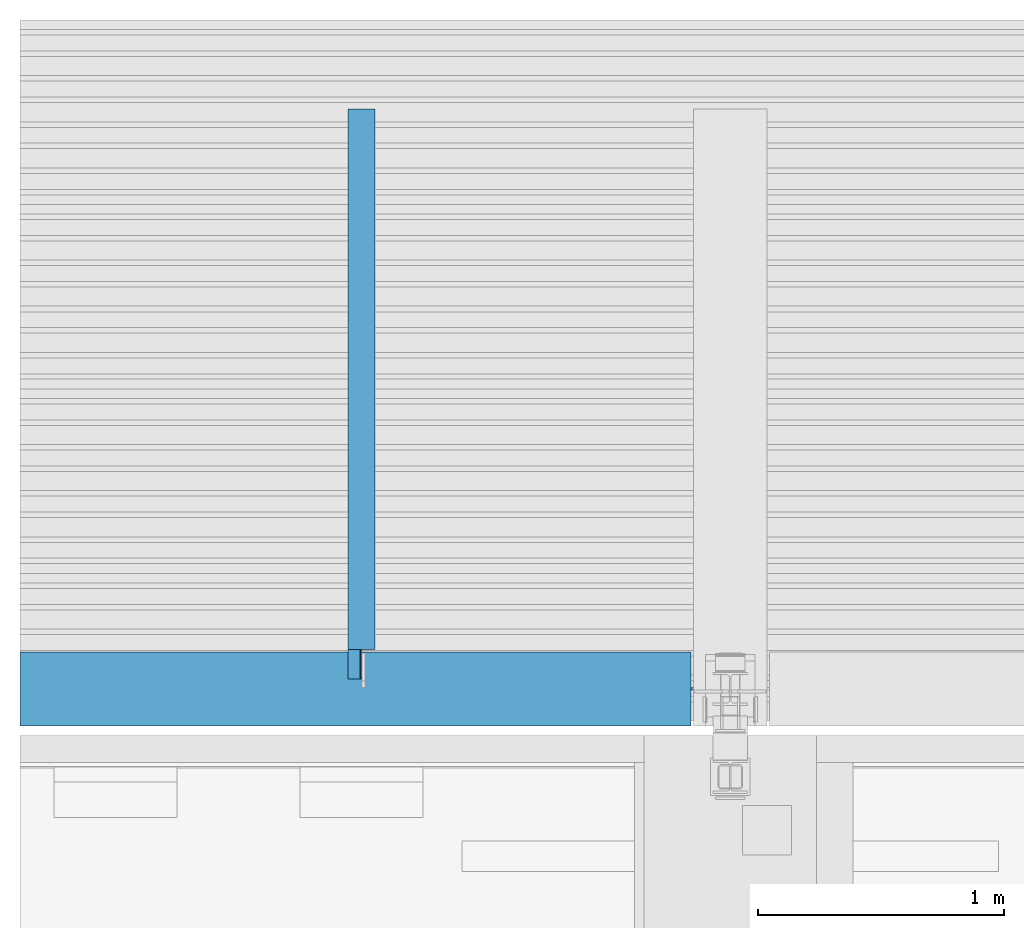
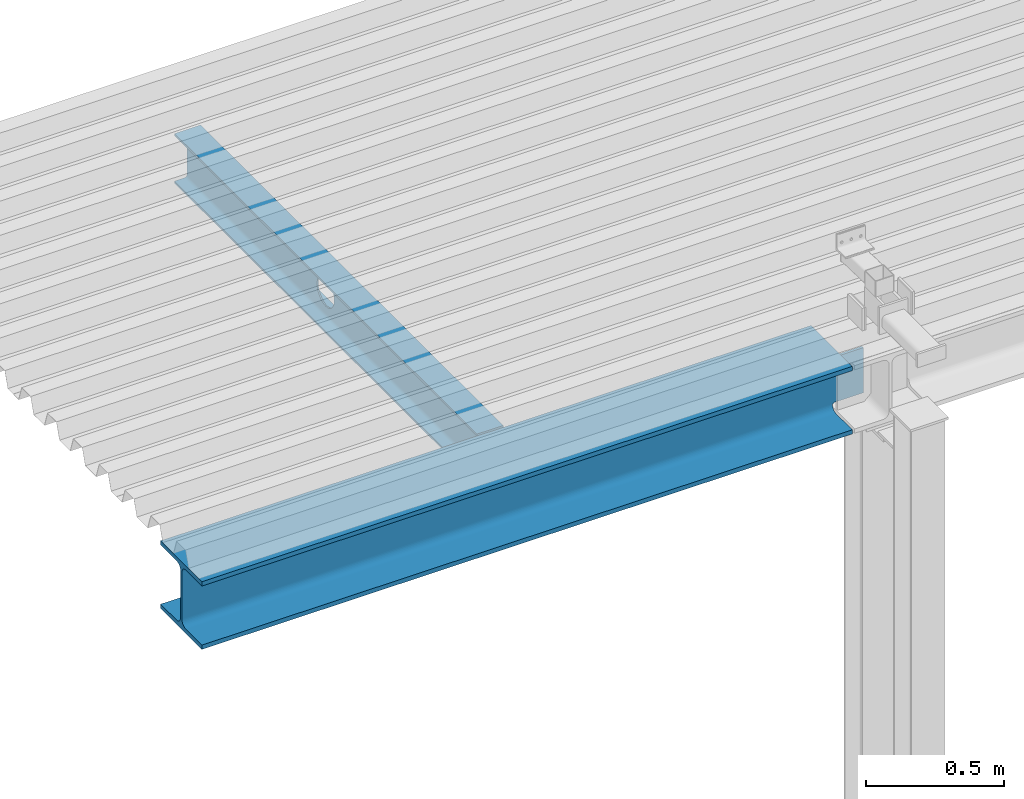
# One storey, part 23 of 34: 2 beams.
"""IFC2X3 building model written with IfcOpenShell, lengths in millimetres."""

import ifcopenshell
import ifcopenshell.guid

model = None  # the IFC model being written
_history = None  # IfcOwnerHistory: only IFC2X3 demands one
_inside = {}  # id of a spatial element -> (the spatial element, [elements in it])
_under = {}  # id of a project, library or spatial element -> (it, [spatial elements below it])
_declared = {}  # id of a project -> (the project, [libraries it declares])
_typed = {}  # id of a type object -> (the type object, [elements of that type])
_made_of = {}  # id of a material, layer set ... -> (it, [elements and type objects made of it])


def new_model(schema):
    """Start an empty IFC model of exactly this schema.

    Asked for "IFC4X3", IfcOpenShell would pick the latest addendum, in which some entities
    have other attributes; the version numbers below select the first issue.
    IFC2X3 requires an IfcOwnerHistory on every rooted entity: one is made here for all.
    """
    global model, _history
    if schema == "IFC4X3":
        model = ifcopenshell.file(schema_version=(4, 3, 0, 0))
    else:
        model = ifcopenshell.file(schema=schema)
    _inside.clear()
    _under.clear()
    _declared.clear()
    _typed.clear()
    _made_of.clear()
    _history = None
    if model.schema == "IFC2X3":
        org = make("IfcOrganization", Name="unknown")
        user = make(
            "IfcPersonAndOrganization",
            ThePerson=make("IfcPerson", FamilyName="unknown"),
            TheOrganization=org,
        )
        app = make(
            "IfcApplication",
            ApplicationDeveloper=org,
            Version="unknown",
            ApplicationFullName="unknown",
            ApplicationIdentifier="unknown",
        )
        _history = make(
            "IfcOwnerHistory",
            OwningUser=user,
            OwningApplication=app,
            ChangeAction="ADDED",
            CreationDate=0,
        )
    return model


def make(cls, **values):
    """One entity of the class cls with the attributes given. An attribute that is None is left unset."""
    return model.create_entity(
        cls, **{name: value for name, value in values.items() if value is not None}
    )


def entity(cls, *values):
    """Any entity or typed value of the class cls, its attributes in the order of the schema. None: left unset."""
    e = model.create_entity(cls)
    for i, value in enumerate(values):
        if value is not None:
            e[i] = value
    return e


def rooted(cls, **values):
    """An entity with a GlobalId (a new one), such as an element, a storey or a relation."""
    return make(cls, GlobalId=ifcopenshell.guid.new(), OwnerHistory=_history, **values)


def si_unit(unit_type, name, prefix=None):
    """IfcSIUnit, for example si_unit("LENGTHUNIT", "METRE", prefix="MILLI")."""
    return make("IfcSIUnit", UnitType=unit_type, Prefix=prefix, Name=name)


def converted_unit(unit_type, name, factor, base, dimensions=None, offset=None):
    """IfcConversionBasedUnit, such as the inch: factor (a typed value) times the base unit."""
    return make(
        "IfcConversionBasedUnit"
        if offset is None
        else "IfcConversionBasedUnitWithOffset",
        ConversionOffset=offset,
        Dimensions=None
        if dimensions is None
        else entity("IfcDimensionalExponents", *dimensions),
        UnitType=unit_type,
        Name=name,
        ConversionFactor=make(
            "IfcMeasureWithUnit", ValueComponent=factor, UnitComponent=base
        ),
    )


def derived_unit(unit_type, elements):
    """IfcDerivedUnit: a product of units, each with its exponent."""
    return make(
        "IfcDerivedUnit",
        Elements=[
            make("IfcDerivedUnitElement", Unit=unit, Exponent=power)
            for unit, power in elements
        ],
        UnitType=unit_type,
    )


def assignment(units):
    """IfcUnitAssignment: the units of a project."""
    return None if units is None else make("IfcUnitAssignment", Units=units)


def point(xyz):
    """IfcCartesianPoint."""
    return None if xyz is None else make("IfcCartesianPoint", Coordinates=xyz)


def direction(xyz):
    """IfcDirection."""
    return None if xyz is None else make("IfcDirection", DirectionRatios=xyz)


def frame(location, z_axis=None, x_axis=None):
    """IfcAxis2Placement3D, a coordinate frame: its origin and axes. An axis left out is left unset."""
    return make(
        "IfcAxis2Placement3D",
        Location=point(location),
        Axis=direction(z_axis),
        RefDirection=direction(x_axis),
    )


def origin_with_axes():
    """The frame at (0, 0, 0) with the z axis (0, 0, 1) and the x axis (1, 0, 0) written out."""
    return frame((0.0, 0.0, 0.0), z_axis=(0.0, 0.0, 1.0), x_axis=(1.0, 0.0, 0.0))


def place(relative_to, where):
    """IfcLocalPlacement: puts the frame where relative to a parent placement (None: the world)."""
    return make(
        "IfcLocalPlacement", PlacementRelTo=relative_to, RelativePlacement=where
    )


def context(
    kind, dimensions, precision=None, world=None, true_north=None, identifier=None
):
    """IfcGeometricRepresentationContext, for example the 3D "Model" context."""
    return make(
        "IfcGeometricRepresentationContext",
        ContextIdentifier=identifier,
        ContextType=kind,
        CoordinateSpaceDimension=dimensions,
        Precision=precision,
        WorldCoordinateSystem=world,
        TrueNorth=true_north,
    )


def subcontext(parent, identifier, kind, view, scale=None):
    """IfcGeometricRepresentationSubContext, for example "Body" below "Model"."""
    return make(
        "IfcGeometricRepresentationSubContext",
        ContextIdentifier=identifier,
        ContextType=kind,
        ParentContext=parent,
        TargetScale=scale,
        TargetView=view,
    )


def project(units=None, contexts=None):
    """IfcProject with its units and contexts."""
    return rooted(
        "IfcProject",
        Name="project",
        RepresentationContexts=contexts,
        UnitsInContext=assignment(units),
    )


def spatial(cls, under=None, at=None, **own):
    """A site, building, storey or space (cls), placed at a placement, below another one or the project."""
    s = rooted(cls, ObjectPlacement=at, **own)
    if under is not None:
        _under.setdefault(under.id(), (under, []))[1].append(s)
    return s


def faces_of(points, faces, orient=None, outer=None):
    """IfcFace entities. A face is a list of loops; a loop is a list of indices into points, from 0.

    orient and outer hold one flag for each loop. By default every Orientation is true, the
    first loop of a face is its IfcFaceOuterBound and the others are IfcFaceBound.
    """
    made = []
    for i, loops in enumerate(faces):
        bounds = []
        for j, loop in enumerate(loops):
            is_outer = j == 0 if outer is None else outer[i][j]
            bounds.append(
                make(
                    "IfcFaceOuterBound" if is_outer else "IfcFaceBound",
                    Bound=make("IfcPolyLoop", Polygon=[points[k] for k in loop]),
                    Orientation=True if orient is None else orient[i][j],
                )
            )
        made.append(make("IfcFace", Bounds=bounds))
    return made


def faceted_brep(points, faces, orient=None, outer=None, voids=None):
    """IfcFacetedBrep: a solid bounded by flat faces; with voids (closed shells), ...WithVoids."""
    shared = [point(p) for p in points]
    hull = make("IfcClosedShell", CfsFaces=faces_of(shared, faces, orient, outer))
    if voids is None:
        return make("IfcFacetedBrep", Outer=hull)
    return make(
        "IfcFacetedBrepWithVoids",
        Outer=hull,
        Voids=[
            make(cls, CfsFaces=faces_of(shared, fs, o, b)) for cls, fs, o, b in voids
        ],
    )


def shape(context_of_items, identifier, shape_type, items):
    """IfcShapeRepresentation: the items that make up one representation, for example the "Body"."""
    return make(
        "IfcShapeRepresentation",
        ContextOfItems=context_of_items,
        RepresentationIdentifier=identifier,
        RepresentationType=shape_type,
        Items=items,
    )


def made_of(thing, what):
    """Note that an element or type object is made of a material, layer set ...; save() writes the relation."""
    if what is not None:
        _made_of.setdefault(what.id(), (what, []))[1].append(thing)
    return thing


def type_object(cls, material=None, **own):
    """A type object (cls), such as IfcWallType, which elements share."""
    return made_of(rooted(cls, **own), material)


def element(
    cls,
    number,
    at=None,
    inside=None,
    cuts=None,
    type_object=None,
    material=None,
    context=None,
    identifier="Body",
    shape_type=None,
    held_by="IfcProductDefinitionShape",
    body=None,
    shapes=None,
    **own,
):
    """One element of the class cls, such as IfcWall. Its Tag is "e" and its number.

    at: its placement. inside: the storey or other place that contains it. cuts: it is an
    opening in that element (IfcRelVoidsElement). A single representation is given by context,
    identifier, shape_type and body (its items); several are given by shapes. held_by: the class
    of the entity that holds the representations. save() writes the other relations.
    """
    e = rooted(cls, Tag="e%d" % number, ObjectPlacement=at, **own)
    if body is not None:
        shapes = [shape(context, identifier, shape_type, body)]
    if shapes is not None:
        e.Representation = make(held_by, Representations=shapes)
    if inside is not None:
        _inside.setdefault(inside.id(), (inside, []))[1].append(e)
    if cuts is not None:
        rooted(
            "IfcRelVoidsElement", RelatingBuildingElement=cuts, RelatedOpeningElement=e
        )
    if type_object is not None:
        _typed.setdefault(type_object.id(), (type_object, []))[1].append(e)
    return made_of(e, material)


def aggregate(whole, parts):
    """IfcRelAggregates: a whole, such as a stair, and the parts it consists of."""
    return rooted("IfcRelAggregates", RelatingObject=whole, RelatedObjects=parts)


def save(model, path):
    """Write the relations noted so far, then the file.

    IfcRelAggregates (storeys below a building ...), IfcRelContainedInSpatialStructure (elements
    in a storey), IfcRelDefinesByType, IfcRelAssociatesMaterial and IfcRelDeclares: one each for
    every whole, place, type object, material and project.
    """
    for whole, parts in _under.values():
        aggregate(whole, parts)
    for where, things in _inside.values():
        rooted(
            "IfcRelContainedInSpatialStructure",
            RelatedElements=things,
            RelatingStructure=where,
        )
    for kind, things in _typed.values():
        rooted("IfcRelDefinesByType", RelatedObjects=things, RelatingType=kind)
    for what, things in _made_of.values():
        rooted("IfcRelAssociatesMaterial", RelatedObjects=things, RelatingMaterial=what)
    for by, libraries in _declared.values():
        rooted("IfcRelDeclares", RelatingContext=by, RelatedDefinitions=libraries)
    model.write(path)


model = new_model("IFC2X3")

# Units and contexts
model_context = context("Model", 3, precision=0.01, world=frame((0.0, 4.29681676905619e-09, 0.0)), true_north=direction((4.01073788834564e-13, 1.0)))
plan_context = context("Plan", 3, precision=0.01, world=frame((0.0, 4.29681676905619e-09, 0.0)), true_north=direction((4.01073788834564e-13, 1.0)))
body_context = subcontext(model_context, "Body", "Model", "MODEL_VIEW")
ifc_project = project(units=[converted_unit("PLANEANGLEUNIT", "DEGREE", entity("IfcPositiveLengthMeasure", 0.0174532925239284), si_unit("PLANEANGLEUNIT", "RADIAN"), dimensions=[0, 0, 0, 0, 0, 0, 0]), si_unit("AREAUNIT", "SQUARE_METRE"), si_unit("LENGTHUNIT", "METRE", prefix="MILLI"), si_unit("MASSUNIT", "GRAM", prefix="KILO"), si_unit("POWERUNIT", "WATT"), si_unit("PRESSUREUNIT", "PASCAL"), si_unit("FORCEUNIT", "NEWTON", prefix="KILO"), si_unit("ELECTRICVOLTAGEUNIT", "VOLT"), si_unit("ELECTRICCURRENTUNIT", "AMPERE"), si_unit("THERMODYNAMICTEMPERATUREUNIT", "DEGREE_CELSIUS"), si_unit("TIMEUNIT", "SECOND"), si_unit("VOLUMEUNIT", "CUBIC_METRE"), derived_unit("LINEARVELOCITYUNIT", [(si_unit("LENGTHUNIT", "METRE"), 1), (si_unit("TIMEUNIT", "SECOND"), -1)]), derived_unit("VOLUMETRICFLOWRATEUNIT", [(si_unit("VOLUMEUNIT", "CUBIC_METRE"), 1), (si_unit("TIMEUNIT", "SECOND"), -1)]), derived_unit("THERMALTRANSMITTANCEUNIT", [(si_unit("POWERUNIT", "WATT"), 1), (si_unit("THERMODYNAMICTEMPERATUREUNIT", "KELVIN"), -1), (si_unit("AREAUNIT", "SQUARE_METRE"), -1)]), derived_unit("SOUNDPRESSUREUNIT", [(si_unit("PRESSUREUNIT", "PASCAL"), 1)])], contexts=[model_context, plan_context])

# Site, building, storey
site_placement = place(None, frame((0.0, -4.29681676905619e-09, 0.0), z_axis=(0.0, 0.0, 1.0), x_axis=(1.0, 0.0, 0.0)))
site = spatial("IfcSite", under=ifc_project, at=site_placement, Name="Gardermoen", CompositionType="ELEMENT")
building_placement = place(site_placement, frame((0.0, 4.29681676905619e-09, 0.0), z_axis=(0.0, 0.0, 1.0), x_axis=(1.0, 0.0, 0.0)))
building = spatial("IfcBuilding", under=site, at=building_placement, Name="TH", CompositionType="ELEMENT")
storey_placement = place(building_placement, origin_with_axes())
storey = spatial("IfcBuildingStorey", under=building, at=storey_placement, Name="F", CompositionType="ELEMENT", Elevation=0.0)

# Beams
beam_type_1 = type_object("IfcBeamType", Name="HEB300", PredefinedType="NOTDEFINED")
beam_1_placement = place(storey_placement, frame((887033.999781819, 484999.995625, 213270.0), z_axis=(0.0, 0.0, 1.0), x_axis=(1.0, 0.0, 0.0)))
element("IfcBeam", 1, at=beam_1_placement, inside=storey, type_object=beam_type_1, Name="STÅLBJELKE", ObjectType="HEB300", context=body_context, shape_type="Brep", body=[
    faceted_brep([(8077.90638675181, 150.0, -150.0), (8077.90638675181, -150.0, -150.0), (10806.0002181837, -150.0, -150.0), (10806.0002181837, 150.0, -150.0), (8077.90638675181, -150.0, -131.0), (10806.0002181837, -150.0, -131.0), (8077.90638675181, -32.5, -131.0), (10806.0002181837, -32.5, -131.0), (8077.90638675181, -27.2325613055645, -130.481202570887), (10806.0002181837, -27.2325613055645, -130.481202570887), (8077.90638675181, -22.1675473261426, -128.944747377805), (10806.0002181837, -22.1675473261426, -128.944747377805), (8077.90638675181, -17.4996037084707, -126.449679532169), (10806.0002181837, -17.4996037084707, -126.449679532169), (8077.90638675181, -13.4081169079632, -123.091883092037), (10806.0002181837, -13.4081169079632, -123.091883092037), (8077.90638675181, -10.0503204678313, -119.000396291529), (10806.0002181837, -10.0503204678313, -119.000396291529), (8077.90638675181, -7.55525262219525, -114.332452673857), (10806.0002181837, -7.55525262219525, -114.332452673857), (8077.90638675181, -6.01879742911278, -109.267438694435), (10806.1233347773, -6.01879742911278, -109.267438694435), (10806.0002181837, -6.24101747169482, -110.0), (8077.90638675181, -5.5, -104.0), (10808.0143720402, -5.5, -104.0), (10807.9100482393, -5.51203047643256, -104.122147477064), (10807.0901529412, -5.64380680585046, -105.460095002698), (10806.4896530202, -5.7865932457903, -106.909830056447), (10806.1233347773, -5.93687392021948, -108.435655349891), (8077.90638675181, -5.5, 104.0), (10808.0143720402, -5.5, 104.0), (10808.9291503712, -5.5, 102.928932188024), (10810.1223656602, -5.5, 101.909830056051), (10811.4603131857, -5.5, 101.089934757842), (10812.9100482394, -5.5, 100.489434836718), (10814.4358735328, -5.5, 100.123116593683), (10816.0002181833, -5.5, 99.9999999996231), (10936.0002181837, -5.5, 100.0), (10936.0002181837, -5.5, -100.0), (10816.0002181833, -5.5, -99.999999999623), (10814.4358735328, -5.5, -100.123116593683), (10812.9100482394, -5.5, -100.489434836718), (10811.4603131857, -5.5, -101.089934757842), (10810.1223656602, -5.5, -101.909830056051), (10808.9291503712, -5.5, -102.928932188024), (8077.90638675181, -6.01879742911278, 109.267438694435), (10806.1233347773, -6.01879742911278, 109.267438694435), (10806.1233347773, -5.93687392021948, 108.435655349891), (10806.4896530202, -5.78659324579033, 106.909830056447), (10807.0901529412, -5.64380680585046, 105.460095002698), (10807.9100482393, -5.5, 104.122147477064), (8077.90638675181, -7.55525262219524, 114.332452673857), (10806.0002181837, -7.55525262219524, 114.332452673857), (10806.0002181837, -6.24101747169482, 110.0), (8077.90638675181, -10.0503204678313, 119.000396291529), (10806.0002181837, -10.0503204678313, 119.000396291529), (8077.90638675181, -13.4081169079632, 123.091883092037), (10806.0002181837, -13.4081169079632, 123.091883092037), (8077.90638675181, -17.4996037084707, 126.449679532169), (10806.0002181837, -17.4996037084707, 126.449679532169), (8077.90638675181, -22.1675473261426, 128.944747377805), (10806.0002181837, -22.1675473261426, 128.944747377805), (8077.90638675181, -27.2325613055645, 130.481202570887), (10806.0002181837, -27.2325613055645, 130.481202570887), (8077.90638675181, -32.5, 131.0), (10806.0002181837, -32.5, 131.0), (8077.90638675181, -150.0, 131.0), (10806.0002181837, -150.0, 131.0), (8077.90638675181, -150.0, 150.0), (10806.0002181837, -150.0, 150.0), (8077.90638675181, 150.0, 150.0), (10806.0002181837, 150.0, 150.0), (8077.90638675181, 150.0, 131.0), (10806.0002181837, 150.0, 131.0), (8077.90638675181, 32.5, 131.0), (10806.0002181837, 32.5, 131.0), (8077.90638675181, 27.2325613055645, 130.481202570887), (10806.0002181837, 27.2325613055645, 130.481202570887), (8077.90638675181, 22.1675473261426, 128.944747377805), (10806.0002181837, 22.1675473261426, 128.944747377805), (8077.90638675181, 17.4996037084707, 126.449679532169), (10806.0002181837, 17.4996037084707, 126.449679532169), (8077.90638675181, 13.4081169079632, 123.091883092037), (10806.0002181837, 13.4081169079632, 123.091883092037), (8077.90638675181, 10.0503204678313, 119.000396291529), (10806.0002181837, 10.0503204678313, 119.000396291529), (8077.90638675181, 7.55525262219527, 114.332452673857), (10806.0002181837, 7.55525262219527, 114.332452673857), (8077.90638675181, 6.01879742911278, 109.267438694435), (10806.1233347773, 6.01879742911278, 109.267438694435), (10806.0002181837, 6.24101747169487, 110.0), (8077.90638675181, 5.5, 104.0), (10808.0143720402, 5.5, 104.0), (10807.9100482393, 5.51203047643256, 104.122147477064), (10807.0901529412, 5.64380680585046, 105.460095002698), (10806.4896530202, 5.7865932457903, 106.909830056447), (10806.1233347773, 5.93687392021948, 108.435655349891), (8077.90638675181, 5.5, -104.0), (10808.0143720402, 5.5, -104.0), (10808.9291503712, 5.5, -102.928932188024), (10810.1223656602, 5.5, -101.909830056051), (10811.4603131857, 5.5, -101.089934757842), (10812.9100482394, 5.5, -100.489434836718), (10814.4358735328, 5.5, -100.123116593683), (10816.0002181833, 5.5, -99.999999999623), (10936.0002181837, 5.5, -100.0), (10936.0002181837, 5.5, 100.0), (10816.0002181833, 5.5, 99.9999999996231), (10814.4358735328, 5.5, 100.123116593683), (10812.9100482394, 5.5, 100.489434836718), (10811.4603131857, 5.5, 101.089934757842), (10810.1223656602, 5.5, 101.909830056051), (10808.9291503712, 5.5, 102.928932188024), (8077.90638675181, 6.01879742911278, -109.267438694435), (10806.1233347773, 6.01879742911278, -109.267438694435), (10806.1233347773, 5.93687392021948, -108.435655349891), (10806.4896530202, 5.78659324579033, -106.909830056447), (10807.0901529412, 5.64380680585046, -105.460095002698), (10807.9100482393, 5.5, -104.122147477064), (8077.90638675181, 7.55525262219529, -114.332452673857), (10806.0002181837, 7.55525262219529, -114.332452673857), (10806.0002181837, 6.24101747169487, -110.0), (8077.90638675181, 10.0503204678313, -119.000396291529), (10806.0002181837, 10.0503204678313, -119.000396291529), (8077.90638675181, 13.4081169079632, -123.091883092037), (10806.0002181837, 13.4081169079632, -123.091883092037), (8077.90638675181, 17.4996037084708, -126.449679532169), (10806.0002181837, 17.4996037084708, -126.449679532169), (8077.90638675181, 22.1675473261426, -128.944747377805), (10806.0002181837, 22.1675473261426, -128.944747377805), (8077.90638675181, 27.2325613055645, -130.481202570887), (10806.0002181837, 27.2325613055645, -130.481202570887), (8077.90638675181, 32.5, -131.0), (10806.0002181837, 32.5, -131.0), (8077.90638675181, 150.0, -131.0), (10806.0002181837, 150.0, -131.0), (10807.9100482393, -5.51203047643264, 104.122147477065), (10805.9236412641, -6.01879742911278, 109.267438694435), (10805.9236412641, 6.01879742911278, 109.267438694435), (10805.6592467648, -7.55525262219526, 114.332452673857), (10805.6592467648, 7.55525262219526, 114.332452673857), (10807.9100482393, 5.51203047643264, -104.122147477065), (10805.9236412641, 6.01879742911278, -109.267438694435), (10805.9236412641, -6.01879742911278, -109.267438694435), (10805.6592467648, 7.55525262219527, -114.332452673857), (10805.6592467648, -7.55525262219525, -114.332452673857)], [[[0, 1, 2, 3]], [[1, 4, 5, 2]], [[4, 6, 7, 5]], [[6, 8, 9, 7]], [[8, 10, 11, 9]], [[10, 12, 13, 11]], [[12, 14, 15, 13]], [[14, 16, 17, 15]], [[16, 18, 19, 17]], [[18, 20, 21, 22, 19]], [[20, 23, 24, 25, 26, 27, 28, 21]], [[23, 29, 30, 31, 32, 33, 34, 35, 36, 37, 38, 39, 40, 41, 42, 43, 44, 24]], [[29, 45, 46, 47, 48, 49, 50, 30]], [[45, 51, 52, 53, 46]], [[51, 54, 55, 52]], [[54, 56, 57, 55]], [[56, 58, 59, 57]], [[58, 60, 61, 59]], [[60, 62, 63, 61]], [[62, 64, 65, 63]], [[64, 66, 67, 65]], [[66, 68, 69, 67]], [[68, 70, 71, 69]], [[70, 72, 73, 71]], [[72, 74, 75, 73]], [[74, 76, 77, 75]], [[76, 78, 79, 77]], [[78, 80, 81, 79]], [[80, 82, 83, 81]], [[82, 84, 85, 83]], [[84, 86, 87, 85]], [[86, 88, 89, 90, 87]], [[88, 91, 92, 93, 94, 95, 96, 89]], [[91, 97, 98, 99, 100, 101, 102, 103, 104, 105, 106, 107, 108, 109, 110, 111, 112, 92]], [[97, 113, 114, 115, 116, 117, 118, 98]], [[113, 119, 120, 121, 114]], [[119, 122, 123, 120]], [[122, 124, 125, 123]], [[124, 126, 127, 125]], [[126, 128, 129, 127]], [[128, 130, 131, 129]], [[130, 132, 133, 131]], [[132, 134, 135, 133]], [[134, 0, 3, 135]], [[37, 106, 105, 38]], [[107, 106, 37, 36]], [[36, 35, 108, 107]], [[35, 34, 109, 108]], [[34, 33, 110, 109]], [[33, 32, 111, 110]], [[32, 31, 112, 111]], [[31, 30, 136, 93, 92, 112]], [[136, 49, 94, 93]], [[49, 48, 95, 94]], [[48, 47, 96, 95]], [[47, 137, 53, 90, 138, 96]], [[53, 139, 55, 57, 59, 61, 63, 65, 67, 69, 71, 73, 75, 77, 79, 81, 83, 85, 140, 90]], [[39, 38, 105, 104]], [[104, 103, 40, 39]], [[103, 102, 41, 40]], [[102, 101, 42, 41]], [[101, 100, 43, 42]], [[100, 99, 44, 43]], [[99, 98, 141, 25, 24, 44]], [[141, 117, 26, 25]], [[117, 116, 27, 26]], [[116, 115, 28, 27]], [[115, 142, 121, 22, 143, 28]], [[121, 144, 123, 125, 127, 129, 131, 133, 135, 3, 2, 5, 7, 9, 11, 13, 15, 17, 145, 22]], [[134, 132, 130, 128, 126, 124, 122, 119, 113, 97, 91, 88, 86, 84, 82, 80, 78, 76, 74, 72, 70, 68, 66, 64, 62, 60, 58, 56, 54, 51, 45, 29, 23, 20, 18, 16, 14, 12, 10, 8, 6, 4, 1, 0]]], orient=[[False], [False], [False], [False], [False], [False], [False], [False], [False], [False], [False], [False], [False], [False], [False], [False], [False], [False], [False], [False], [False], [False], [False], [False], [False], [False], [False], [False], [False], [False], [False], [False], [False], [False], [False], [False], [False], [False], [False], [False], [False], [False], [False], [False], [False], [False], [False], [False], [False], [False], [False], [False], [False], [False], [False], [False], [False], [False], [False], [False], [False], [False], [False], [False], [False], [False], [False], [False], [False], [False]]),
])
beam_type_2 = type_object("IfcBeamType", Name="IPE220", PredefinedType="NOTDEFINED")
beam_2_placement = place(storey_placement, frame((896499.999781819, 485029.995624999, 213310.0), z_axis=(0.0, 0.0, 1.0), x_axis=(0.0, 1.0, 0.0)))
element("IfcBeam", 2, at=beam_2_placement, inside=storey, type_object=beam_type_2, Name="STÅLBJELKE", ObjectType="IPE220", context=body_context, shape_type="Brep", body=[
    faceted_brep([(2327.65437500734, -55.0, -110.0), (2327.65437500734, 55.0, -110.0), (9.99999999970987, 55.0, -110.0), (9.99999999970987, -2.9500000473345, -110.0), (129.999999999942, -2.95000004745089, -110.0), (129.999999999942, -55.0, -110.0), (2327.65437500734, -55.0, -100.800000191), (129.999999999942, -55.0, -100.800000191), (2327.65437500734, -14.9500000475, -100.800000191), (129.999999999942, -14.9500000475, -100.800000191), (2327.65437500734, -12.6089161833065, -100.569423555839), (129.999999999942, -12.6089161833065, -100.569423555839), (2327.65437500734, -10.3577988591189, -99.8865545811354), (129.999999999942, -10.3577988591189, -99.8865545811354), (2327.65437500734, -8.28315725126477, -98.7776355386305), (129.999999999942, -8.28315725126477, -98.7776355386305), (2327.65437500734, -6.46471867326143, -97.2852815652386), (129.999999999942, -6.46471867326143, -97.2852815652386), (2327.65437500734, -4.97236469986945, -95.4668429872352), (129.999999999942, -4.97236469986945, -95.4668429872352), (2327.65437500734, -3.86344565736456, -93.3922013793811), (129.999999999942, -3.86344565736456, -93.3922013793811), (2327.65437500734, -3.18057668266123, -91.1410840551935), (129.999999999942, -3.18057668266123, -91.1410840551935), (2327.65437500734, -2.9500000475, -88.800000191), (129.999999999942, -2.96969830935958, -89.0), (9.99999999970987, -2.96969830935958, -89.0), (9.99999999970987, -2.9500000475, -88.800000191), (2327.65437500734, -2.9500000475, 88.800000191), (9.99999999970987, -2.9500000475, 70.0), (120.000000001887, -2.9500000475, 69.9999999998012), (121.564344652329, -2.9500000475, 70.1231165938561), (123.090169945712, -2.9500000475, 70.4894348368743), (124.539904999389, -2.9500000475, 71.0899347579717), (125.87785252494, -2.9500000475, 71.9098300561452), (127.071067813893, -2.9500000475, 72.9289321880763), (128.090169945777, -2.9500000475, 74.1221474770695), (128.910065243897, -2.9500000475, 75.4600950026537), (129.510565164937, -2.9500000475, 76.9098300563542), (129.876883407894, -2.9500000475, 78.4356553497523), (130.000000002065, -2.9500000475, 79.999999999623), (130.000000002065, -2.9500000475, 88.800000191), (1319.99999644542, -2.95000004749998, -62.4999973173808), (1330.28716071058, -2.95000004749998, -61.6475789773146), (1340.29371582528, -2.95000004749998, -59.113575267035), (1349.74671125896, -2.95000004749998, -54.9671072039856), (1358.38829393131, -2.95000004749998, -49.3212796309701), (1365.98274398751, -2.95000004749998, -42.3300960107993), (1372.32290462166, -2.95000004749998, -34.1842576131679), (1377.23583277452, -2.95000004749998, -25.1059616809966), (1380.58751656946, -2.95000004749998, -15.3428404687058), (1382.28653080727, -2.95000004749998, -5.16120647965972), (1382.28653080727, -2.95000004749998, 5.16121184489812), (1380.58751656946, -2.95000004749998, 15.3428458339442), (1377.23583277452, -2.95000004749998, 25.105967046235), (1372.32290462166, -2.95000004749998, 34.1842629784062), (1365.98274398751, -2.95000004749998, 42.3301013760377), (1358.38829393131, -2.95000004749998, 49.3212849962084), (1349.74671125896, -2.95000004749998, 54.9671125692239), (1340.29371582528, -2.95000004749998, 59.1135806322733), (1330.28716071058, -2.95000004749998, 61.6475843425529), (1319.99999866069, -2.95000004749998, 62.5000026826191), (1309.14699239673, -2.95000004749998, 61.5504878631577), (1298.62374438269, -2.95000004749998, 58.7307926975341), (1288.75000307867, -2.95000004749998, 54.1265921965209), (1279.82577711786, -2.95000004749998, 47.8777826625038), (1272.12222459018, -2.95000004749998, 40.1742310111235), (1265.87341404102, -2.95000004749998, 31.250005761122), (1261.26921241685, -2.95000004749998, 21.3762649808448), (1258.44951605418, -2.95000004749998, 10.8530172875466), (1257.50000000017, -2.95000004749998, 6.23736814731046e-06), (1258.44951481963, -2.95000004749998, -10.8530049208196), (1261.26920998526, -2.95000004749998, -21.3762529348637), (1265.87341048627, -2.95000004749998, -31.2499942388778), (1272.12222002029, -2.95000004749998, -40.1742201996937), (1279.82577167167, -2.95000004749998, -47.8777727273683), (1288.74999692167, -2.95000004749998, -54.1265832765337), (1298.62373770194, -2.95000004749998, -58.7307849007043), (1309.14698539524, -2.95000004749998, -61.5504812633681), (2327.65437500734, -3.18057668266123, 91.1410840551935), (130.000000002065, -3.18057668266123, 91.1410840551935), (2327.65437500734, -3.86344565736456, 93.3922013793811), (130.000000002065, -3.86344565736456, 93.3922013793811), (2327.65437500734, -4.97236469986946, 95.4668429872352), (130.000000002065, -4.97236469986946, 95.4668429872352), (2327.65437500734, -6.46471867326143, 97.2852815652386), (130.000000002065, -6.46471867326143, 97.2852815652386), (2327.65437500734, -8.28315725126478, 98.7776355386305), (130.000000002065, -8.28315725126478, 98.7776355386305), (2327.65437500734, -10.3577988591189, 99.8865545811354), (130.000000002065, -10.3577988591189, 99.8865545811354), (2327.65437500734, -12.6089161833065, 100.569423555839), (130.000000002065, -12.6089161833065, 100.569423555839), (2327.65437500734, -14.9500000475, 100.800000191), (130.000000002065, -14.9500000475, 100.800000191), (2327.65437500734, -55.0, 100.800000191), (130.000000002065, -55.0, 100.800000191), (2327.65437500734, -55.0, 110.0), (130.000000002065, -55.0, 110.0), (2327.65437500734, 55.0, 110.0), (130.000000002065, 55.0, 110.0), (2327.65437500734, 55.0, 100.800000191), (130.000000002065, 55.0, 100.800000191), (2327.65437500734, 14.9500000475, 100.800000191), (130.000000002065, 14.9500000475, 100.800000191), (2327.65437500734, 12.6089161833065, 100.569423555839), (130.000000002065, 12.6089161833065, 100.569423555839), (2327.65437500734, 10.3577988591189, 99.8865545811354), (130.000000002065, 10.3577988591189, 99.8865545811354), (2327.65437500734, 8.28315725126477, 98.7776355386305), (130.000000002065, 8.28315725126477, 98.7776355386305), (2327.65437500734, 6.46471867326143, 97.2852815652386), (130.000000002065, 6.46471867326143, 97.2852815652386), (2327.65437500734, 4.97236469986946, 95.4668429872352), (130.000000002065, 4.97236469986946, 95.4668429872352), (2327.65437500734, 3.86344565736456, 93.3922013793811), (130.000000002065, 3.86344565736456, 93.3922013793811), (2327.65437500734, 3.18057668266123, 91.1410840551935), (130.000000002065, 3.18057668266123, 91.1410840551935), (2327.65437500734, 2.9500000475, 88.800000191), (130.000000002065, 2.9500000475, 88.800000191), (2327.65437500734, 2.9500000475, -88.800000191), (130.000000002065, 2.95000004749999, 79.999999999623), (129.876883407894, 2.95000004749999, 78.4356553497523), (129.510565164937, 2.95000004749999, 76.9098300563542), (128.910065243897, 2.95000004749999, 75.4600950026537), (128.090169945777, 2.95000004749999, 74.1221474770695), (127.071067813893, 2.95000004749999, 72.9289321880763), (125.87785252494, 2.95000004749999, 71.9098300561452), (124.539904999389, 2.95000004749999, 71.0899347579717), (123.090169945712, 2.95000004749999, 70.4894348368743), (121.564344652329, 2.95000004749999, 70.1231165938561), (120.000000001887, 2.95000004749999, 69.9999999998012), (9.99999999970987, 2.9500000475, 70.0), (9.99999999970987, 2.9500000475, -88.800000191), (1330.28716071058, 2.95000004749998, -61.6475789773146), (1319.99999644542, 2.95000004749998, -62.4999973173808), (1309.14698539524, 2.95000004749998, -61.5504812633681), (1298.62373770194, 2.95000004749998, -58.7307849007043), (1288.74999692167, 2.95000004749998, -54.1265832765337), (1279.82577167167, 2.95000004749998, -47.8777727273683), (1272.12222002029, 2.95000004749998, -40.1742201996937), (1265.87341048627, 2.95000004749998, -31.2499942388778), (1261.26920998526, 2.95000004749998, -21.3762529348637), (1258.44951481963, 2.95000004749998, -10.8530049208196), (1257.50000000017, 2.95000004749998, 6.23736814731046e-06), (1258.44951605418, 2.95000004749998, 10.8530172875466), (1261.26921241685, 2.95000004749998, 21.3762649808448), (1265.87341404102, 2.95000004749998, 31.250005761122), (1272.12222459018, 2.95000004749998, 40.1742310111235), (1279.82577711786, 2.95000004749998, 47.8777826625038), (1288.75000307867, 2.95000004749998, 54.1265921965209), (1298.62374438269, 2.95000004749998, 58.7307926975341), (1309.14699239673, 2.95000004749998, 61.5504878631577), (1319.99999866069, 2.95000004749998, 62.5000026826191), (1330.28716071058, 2.95000004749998, 61.6475843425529), (1340.29371582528, 2.95000004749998, 59.1135806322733), (1349.74671125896, 2.95000004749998, 54.9671125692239), (1358.38829393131, 2.95000004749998, 49.3212849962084), (1365.98274398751, 2.95000004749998, 42.3301013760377), (1372.32290462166, 2.95000004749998, 34.1842629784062), (1377.23583277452, 2.95000004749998, 25.105967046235), (1380.58751656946, 2.95000004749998, 15.3428458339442), (1382.28653080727, 2.95000004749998, 5.16121184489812), (1382.28653080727, 2.95000004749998, -5.16120647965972), (1380.58751656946, 2.95000004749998, -15.3428404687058), (1377.23583277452, 2.95000004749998, -25.1059616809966), (1372.32290462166, 2.95000004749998, -34.1842576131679), (1365.98274398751, 2.95000004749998, -42.3300960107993), (1358.38829393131, 2.95000004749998, -49.3212796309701), (1349.74671125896, 2.95000004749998, -54.9671072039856), (1340.29371582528, 2.95000004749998, -59.113575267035), (2327.65437500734, 3.18057668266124, -91.1410840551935), (9.99999999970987, 3.18057668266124, -91.1410840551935), (2327.65437500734, 3.86344565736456, -93.3922013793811), (9.99999999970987, 3.86344565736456, -93.3922013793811), (2327.65437500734, 4.97236469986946, -95.4668429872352), (9.99999999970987, 4.97236469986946, -95.4668429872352), (2327.65437500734, 6.46471867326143, -97.2852815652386), (9.99999999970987, 6.46471867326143, -97.2852815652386), (2327.65437500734, 8.28315725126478, -98.7776355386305), (9.99999999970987, 8.28315725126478, -98.7776355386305), (2327.65437500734, 10.3577988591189, -99.8865545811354), (9.99999999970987, 10.3577988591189, -99.8865545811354), (2327.65437500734, 12.6089161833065, -100.569423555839), (9.99999999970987, 12.6089161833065, -100.569423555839), (2327.65437500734, 14.9500000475, -100.800000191), (9.99999999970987, 14.9500000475, -100.800000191), (2327.65437500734, 55.0, -100.800000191), (9.99999999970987, 55.0, -100.800000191), (129.999999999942, -2.95000004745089, -89.0), (9.99999999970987, -2.95000004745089, -89.0)], [[[0, 1, 2, 3, 4, 5]], [[6, 0, 5, 7]], [[8, 6, 7, 9]], [[10, 8, 9, 11]], [[12, 10, 11, 13]], [[14, 12, 13, 15]], [[16, 14, 15, 17]], [[18, 16, 17, 19]], [[20, 18, 19, 21]], [[22, 20, 21, 23]], [[24, 22, 23, 25, 26, 27]], [[28, 24, 27, 29, 30, 31, 32, 33, 34, 35, 36, 37, 38, 39, 40, 41], [42, 43, 44, 45, 46, 47, 48, 49, 50, 51, 52, 53, 54, 55, 56, 57, 58, 59, 60, 61, 62, 63, 64, 65, 66, 67, 68, 69, 70, 71, 72, 73, 74, 75, 76, 77, 78]], [[79, 28, 41, 80]], [[81, 79, 80, 82]], [[83, 81, 82, 84]], [[85, 83, 84, 86]], [[87, 85, 86, 88]], [[89, 87, 88, 90]], [[91, 89, 90, 92]], [[93, 91, 92, 94]], [[95, 93, 94, 96]], [[97, 95, 96, 98]], [[99, 97, 98, 100]], [[101, 99, 100, 102]], [[103, 101, 102, 104]], [[105, 103, 104, 106]], [[107, 105, 106, 108]], [[109, 107, 108, 110]], [[111, 109, 110, 112]], [[113, 111, 112, 114]], [[115, 113, 114, 116]], [[117, 115, 116, 118]], [[119, 117, 118, 120]], [[121, 119, 120, 122, 123, 124, 125, 126, 127, 128, 129, 130, 131, 132, 133, 134], [135, 136, 137, 138, 139, 140, 141, 142, 143, 144, 145, 146, 147, 148, 149, 150, 151, 152, 153, 154, 155, 156, 157, 158, 159, 160, 161, 162, 163, 164, 165, 166, 167, 168, 169, 170, 171]], [[172, 121, 134, 173]], [[174, 172, 173, 175]], [[176, 174, 175, 177]], [[178, 176, 177, 179]], [[180, 178, 179, 181]], [[182, 180, 181, 183]], [[184, 182, 183, 185]], [[186, 184, 185, 187]], [[188, 186, 187, 189]], [[1, 188, 189, 2]], [[43, 42, 136, 135]], [[42, 78, 137, 136]], [[78, 77, 138, 137]], [[77, 76, 139, 138]], [[76, 75, 140, 139]], [[75, 74, 141, 140]], [[74, 73, 142, 141]], [[73, 72, 143, 142]], [[72, 71, 144, 143]], [[71, 70, 145, 144]], [[70, 69, 146, 145]], [[69, 68, 147, 146]], [[68, 67, 148, 147]], [[67, 66, 149, 148]], [[66, 65, 150, 149]], [[65, 64, 151, 150]], [[64, 63, 152, 151]], [[63, 62, 153, 152]], [[62, 61, 154, 153]], [[61, 60, 155, 154]], [[60, 59, 156, 155]], [[59, 58, 157, 156]], [[58, 57, 158, 157]], [[57, 56, 159, 158]], [[56, 55, 160, 159]], [[55, 54, 161, 160]], [[54, 53, 162, 161]], [[53, 52, 163, 162]], [[52, 51, 164, 163]], [[51, 50, 165, 164]], [[50, 49, 166, 165]], [[49, 48, 167, 166]], [[48, 47, 168, 167]], [[47, 46, 169, 168]], [[46, 45, 170, 169]], [[45, 44, 171, 170]], [[44, 43, 135, 171]], [[190, 25, 23, 21, 19, 17, 15, 13, 11, 9, 7, 5, 4]], [[190, 191, 26, 25]], [[190, 4, 3, 191]], [[30, 29, 133, 132]], [[132, 131, 31, 30]], [[131, 130, 32, 31]], [[130, 129, 33, 32]], [[129, 128, 34, 33]], [[128, 127, 35, 34]], [[127, 126, 36, 35]], [[126, 125, 37, 36]], [[125, 124, 38, 37]], [[124, 123, 39, 38]], [[123, 122, 40, 39]], [[122, 120, 118, 116, 114, 112, 110, 108, 106, 104, 102, 100, 98, 96, 94, 92, 90, 88, 86, 84, 82, 80, 41, 40]], [[26, 191, 3, 2, 189, 187, 185, 183, 181, 179, 177, 175, 173, 134, 133, 29, 27]], [[6, 8, 10, 12, 14, 16, 18, 20, 22, 24, 28, 79, 81, 83, 85, 87, 89, 91, 93, 95, 97, 99, 101, 103, 105, 107, 109, 111, 113, 115, 117, 119, 121, 172, 174, 176, 178, 180, 182, 184, 186, 188, 1, 0]]], orient=[[False], [False], [False], [False], [False], [False], [False], [False], [False], [False], [False], [False, False], [False], [False], [False], [False], [False], [False], [False], [False], [False], [False], [False], [False], [False], [False], [False], [False], [False], [False], [False], [False], [False], [False, False], [False], [False], [False], [False], [False], [False], [False], [False], [False], [False], [False], [False], [False], [False], [False], [False], [False], [False], [False], [False], [False], [False], [False], [False], [False], [False], [False], [False], [False], [False], [False], [False], [False], [False], [False], [False], [False], [False], [False], [False], [False], [False], [False], [False], [False], [False], [False], [False], [False], [False], [False], [False], [False], [False], [False], [False], [False], [False], [False], [False], [False], [False], [False], [False]]),
])

save(model, "model.ifc")
